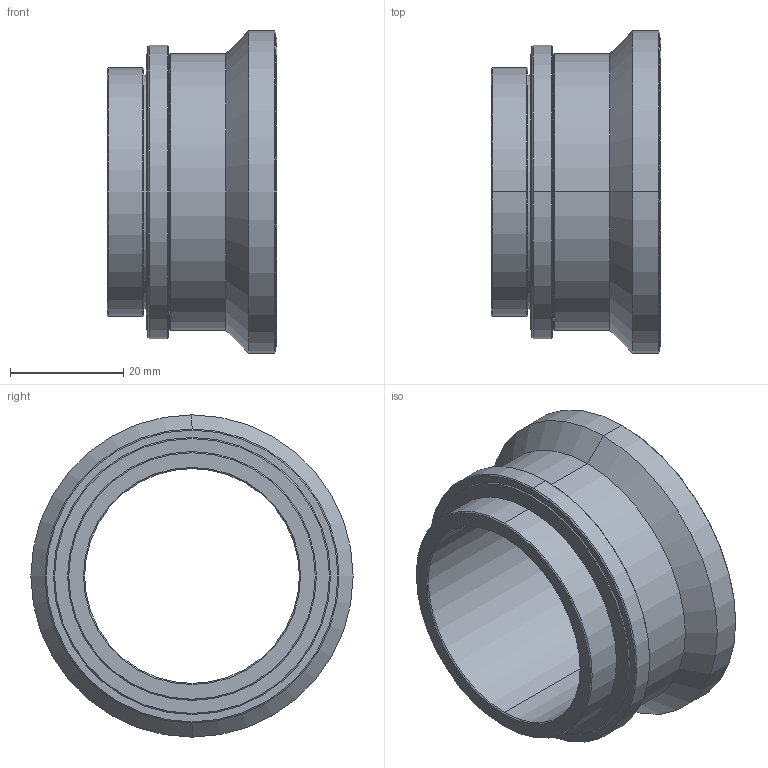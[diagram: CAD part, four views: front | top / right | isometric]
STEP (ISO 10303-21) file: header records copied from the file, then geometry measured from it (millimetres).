
FILE_DESCRIPTION (( 'STEP AP203' ), '1' );
FILE_NAME ('VS-FR15-38V_M52.STEP', '2017-04-26T04:10:10', ( 'miura_vst' ), ( '' ), 'SwSTEP 2.0', 'SolidWorks 2017', '' );
FILE_SCHEMA (( 'CONFIG_CONTROL_DESIGN' ));
Length unit declared in the file: millimetre
Products named in the file (1): VS-FR15-38V_M52
Bounding box: 30 x 57 x 57 mm (x, y, z)
Volume: 22513.4 mm3; surface area: 12643 mm2
Topology: 1 solids, 1 shells, 57 faces, 114 edges, 66 vertices
Faces by surface type: cone 30, cylinder 18, plane 9
Entity records: 1555 total; most frequent: DIRECTION 296, CARTESIAN_POINT 238, ORIENTED_EDGE 228, AXIS2_PLACEMENT_3D 124, EDGE_CURVE 114, CIRCLE 66, VERTEX_POINT 66, EDGE_LOOP 66
